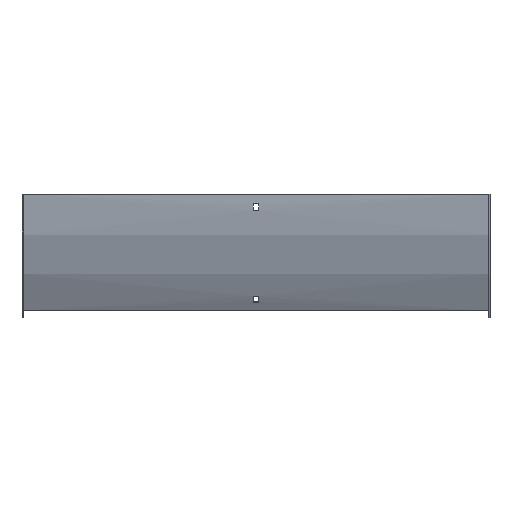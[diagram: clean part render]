
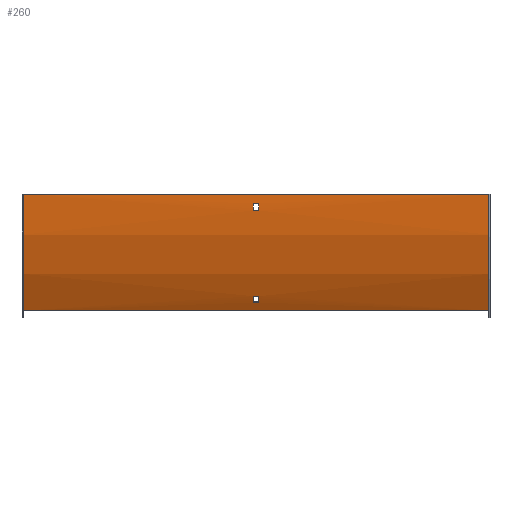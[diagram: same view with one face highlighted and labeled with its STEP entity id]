
A CAD part, front view. The second image highlights one B-rep face of the part: STEP entity #260.
In plain terms, the highlighted cylindrical face has radius 300 mm (diameter 600 mm), a partial arc.
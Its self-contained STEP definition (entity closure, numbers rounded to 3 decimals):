
#1 = VERTEX_POINT ( 'NONE', #59 ) ;
#3 = DIRECTION ( 'NONE',  ( -1., 0., 0. ) ) ;
#6 = AXIS2_PLACEMENT_3D ( 'NONE', #29, #222, #499 ) ;
#7 = VERTEX_POINT ( 'NONE', #113 ) ;
#8 = DIRECTION ( 'NONE',  ( -1., 0., 0. ) ) ;
#10 = DIRECTION ( 'NONE',  ( 0., 0., -1. ) ) ;
#11 = VERTEX_POINT ( 'NONE', #20 ) ;
#12 = VECTOR ( 'NONE', #546, 1000. ) ;
#14 = EDGE_CURVE ( 'NONE', #357, #98, #163, .T. ) ;
#19 = DIRECTION ( 'NONE',  ( 0., 0., 1. ) ) ;
#20 = CARTESIAN_POINT ( 'NONE',  ( -300., 38.692, -150. ) ) ;
#29 = CARTESIAN_POINT ( 'NONE',  ( 301.5, 298.5, 0. ) ) ;
#30 = DIRECTION ( 'NONE',  ( 0., 0., 1. ) ) ;
#33 = CIRCLE ( 'NONE', #265, 300. ) ;
#35 = EDGE_CURVE ( 'NONE', #7, #398, #480, .T. ) ;
#42 = VERTEX_POINT ( 'NONE', #498 ) ;
#58 = VECTOR ( 'NONE', #386, 1000. ) ;
#59 = CARTESIAN_POINT ( 'NONE',  ( 300., -1.5, 0. ) ) ;
#64 = ORIENTED_EDGE ( 'NONE', *, *, #97, .F. ) ;
#67 = VECTOR ( 'NONE', #326, 1000. ) ;
#96 = CARTESIAN_POINT ( 'NONE',  ( 3.25, 298.5, 0. ) ) ;
#97 = EDGE_CURVE ( 'NONE', #98, #42, #170, .T. ) ;
#98 = VERTEX_POINT ( 'NONE', #444 ) ;
#99 = ORIENTED_EDGE ( 'NONE', *, *, #223, .T. ) ;
#108 = DIRECTION ( 'NONE',  ( -1., 0., 0. ) ) ;
#109 = EDGE_CURVE ( 'NONE', #1, #214, #172, .T. ) ;
#113 = CARTESIAN_POINT ( 'NONE',  ( 3.25, 28.83, -131.446 ) ) ;
#116 = VECTOR ( 'NONE', #548, 1000. ) ;
#118 = VERTEX_POINT ( 'NONE', #448 ) ;
#128 = CYLINDRICAL_SURFACE ( 'NONE', #6, 300. ) ;
#151 = EDGE_LOOP ( 'NONE', ( #509, #334, #385, #64 ) ) ;
#154 = AXIS2_PLACEMENT_3D ( 'NONE', #305, #349, #19 ) ;
#158 = DIRECTION ( 'NONE',  ( 0., 0., 1. ) ) ;
#159 = ORIENTED_EDGE ( 'NONE', *, *, #109, .T. ) ;
#163 = CIRCLE ( 'NONE', #154, 300. ) ;
#170 = LINE ( 'NONE', #264, #180 ) ;
#172 = LINE ( 'NONE', #355, #116 ) ;
#177 = VECTOR ( 'NONE', #432, 1000. ) ;
#180 = VECTOR ( 'NONE', #353, 1000. ) ;
#181 = CARTESIAN_POINT ( 'NONE',  ( -3.25, 298.5, 0. ) ) ;
#201 = ORIENTED_EDGE ( 'NONE', *, *, #332, .T. ) ;
#202 = DIRECTION ( 'NONE',  ( 0., 0., 1. ) ) ;
#214 = VERTEX_POINT ( 'NONE', #327 ) ;
#221 = AXIS2_PLACEMENT_3D ( 'NONE', #549, #262, #30 ) ;
#222 = DIRECTION ( 'NONE',  ( -1., 0., 0. ) ) ;
#223 = EDGE_CURVE ( 'NONE', #585, #118, #455, .T. ) ;
#229 = ORIENTED_EDGE ( 'NONE', *, *, #300, .F. ) ;
#246 = LINE ( 'NONE', #535, #58 ) ;
#248 = ORIENTED_EDGE ( 'NONE', *, *, #289, .F. ) ;
#256 = AXIS2_PLACEMENT_3D ( 'NONE', #438, #108, #158 ) ;
#260 = ADVANCED_FACE ( 'NONE', ( #282, #284, #550 ), #128, .T. ) ;
#262 = DIRECTION ( 'NONE',  ( 1., 0., 0. ) ) ;
#264 = CARTESIAN_POINT ( 'NONE',  ( 301.5, -0.764, -21. ) ) ;
#265 = AXIS2_PLACEMENT_3D ( 'NONE', #344, #8, #202 ) ;
#281 = CARTESIAN_POINT ( 'NONE',  ( -3.25, 32.9, -139.488 ) ) ;
#282 = FACE_BOUND ( 'NONE', #151, .T. ) ;
#284 = FACE_OUTER_BOUND ( 'NONE', #470, .T. ) ;
#289 = EDGE_CURVE ( 'NONE', #552, #11, #506, .T. ) ;
#291 = DIRECTION ( 'NONE',  ( -1., 0., 0. ) ) ;
#300 = EDGE_CURVE ( 'NONE', #11, #214, #348, .T. ) ;
#305 = CARTESIAN_POINT ( 'NONE',  ( -3.25, 298.5, 0. ) ) ;
#312 = LINE ( 'NONE', #399, #12 ) ;
#314 = VERTEX_POINT ( 'NONE', #347 ) ;
#319 = EDGE_CURVE ( 'NONE', #42, #314, #522, .T. ) ;
#326 = DIRECTION ( 'NONE',  ( -1., 0., 0. ) ) ;
#327 = CARTESIAN_POINT ( 'NONE',  ( -300., -1.5, 0. ) ) ;
#332 = EDGE_CURVE ( 'NONE', #398, #585, #246, .T. ) ;
#334 = ORIENTED_EDGE ( 'NONE', *, *, #587, .F. ) ;
#344 = CARTESIAN_POINT ( 'NONE',  ( 300., 298.5, 0. ) ) ;
#346 = ORIENTED_EDGE ( 'NONE', *, *, #35, .T. ) ;
#347 = CARTESIAN_POINT ( 'NONE',  ( 3.25, -1.26, -12. ) ) ;
#348 = CIRCLE ( 'NONE', #256, 300. ) ;
#349 = DIRECTION ( 'NONE',  ( 1., 0., 0. ) ) ;
#353 = DIRECTION ( 'NONE',  ( 1., 0., 0. ) ) ;
#355 = CARTESIAN_POINT ( 'NONE',  ( 300., -1.5, 0. ) ) ;
#357 = VERTEX_POINT ( 'NONE', #428 ) ;
#361 = EDGE_CURVE ( 'NONE', #552, #1, #33, .T. ) ;
#385 = ORIENTED_EDGE ( 'NONE', *, *, #319, .F. ) ;
#386 = DIRECTION ( 'NONE',  ( -1., 0., 0. ) ) ;
#398 = VERTEX_POINT ( 'NONE', #558 ) ;
#399 = CARTESIAN_POINT ( 'NONE',  ( 301.5, 28.83, -131.446 ) ) ;
#428 = CARTESIAN_POINT ( 'NONE',  ( -3.25, -1.26, -12. ) ) ;
#432 = DIRECTION ( 'NONE',  ( -1., 0., 0. ) ) ;
#438 = CARTESIAN_POINT ( 'NONE',  ( -300., 298.5, 0. ) ) ;
#444 = CARTESIAN_POINT ( 'NONE',  ( -3.25, -0.764, -21. ) ) ;
#448 = CARTESIAN_POINT ( 'NONE',  ( -3.25, 28.83, -131.446 ) ) ;
#455 = CIRCLE ( 'NONE', #541, 300. ) ;
#462 = LINE ( 'NONE', #559, #67 ) ;
#470 = EDGE_LOOP ( 'NONE', ( #229, #248, #496, #159 ) ) ;
#480 = CIRCLE ( 'NONE', #221, 300. ) ;
#481 = EDGE_LOOP ( 'NONE', ( #201, #99, #488, #346 ) ) ;
#484 = CARTESIAN_POINT ( 'NONE',  ( 300., 38.692, -150. ) ) ;
#488 = ORIENTED_EDGE ( 'NONE', *, *, #525, .T. ) ;
#496 = ORIENTED_EDGE ( 'NONE', *, *, #361, .T. ) ;
#498 = CARTESIAN_POINT ( 'NONE',  ( 3.25, -0.764, -21. ) ) ;
#499 = DIRECTION ( 'NONE',  ( 0., 0., 1. ) ) ;
#506 = LINE ( 'NONE', #484, #177 ) ;
#509 = ORIENTED_EDGE ( 'NONE', *, *, #14, .F. ) ;
#522 = CIRCLE ( 'NONE', #592, 300. ) ;
#525 = EDGE_CURVE ( 'NONE', #118, #7, #312, .T. ) ;
#535 = CARTESIAN_POINT ( 'NONE',  ( 301.5, 32.9, -139.488 ) ) ;
#541 = AXIS2_PLACEMENT_3D ( 'NONE', #181, #3, #600 ) ;
#546 = DIRECTION ( 'NONE',  ( 1., 0., 0. ) ) ;
#548 = DIRECTION ( 'NONE',  ( -1., 0., 0. ) ) ;
#549 = CARTESIAN_POINT ( 'NONE',  ( 3.25, 298.5, 0. ) ) ;
#550 = FACE_BOUND ( 'NONE', #481, .T. ) ;
#551 = CARTESIAN_POINT ( 'NONE',  ( 300., 38.692, -150. ) ) ;
#552 = VERTEX_POINT ( 'NONE', #551 ) ;
#558 = CARTESIAN_POINT ( 'NONE',  ( 3.25, 32.9, -139.488 ) ) ;
#559 = CARTESIAN_POINT ( 'NONE',  ( 301.5, -1.26, -12. ) ) ;
#585 = VERTEX_POINT ( 'NONE', #281 ) ;
#587 = EDGE_CURVE ( 'NONE', #314, #357, #462, .T. ) ;
#592 = AXIS2_PLACEMENT_3D ( 'NONE', #96, #291, #10 ) ;
#600 = DIRECTION ( 'NONE',  ( 0., 0., -1. ) ) ;
